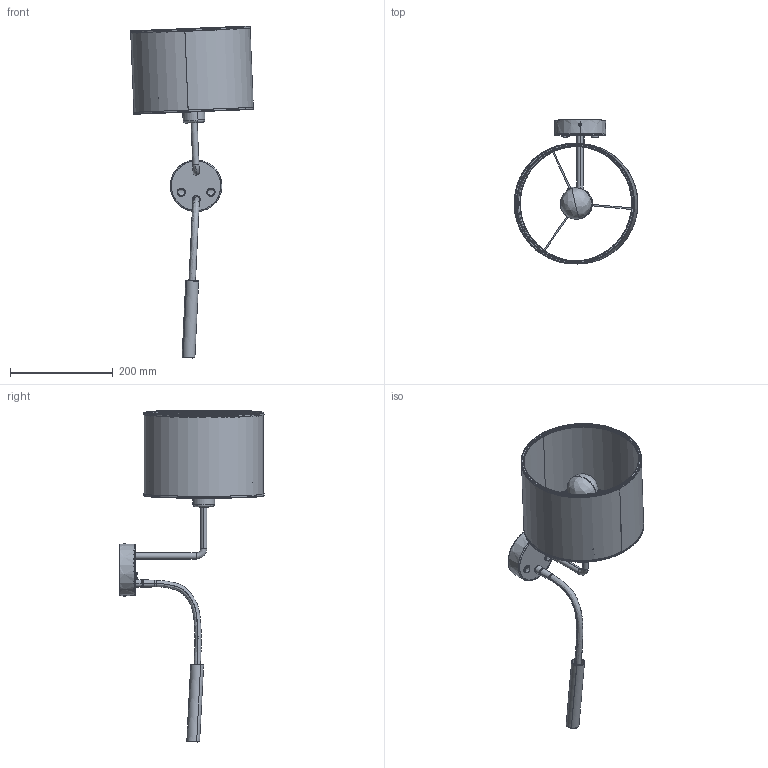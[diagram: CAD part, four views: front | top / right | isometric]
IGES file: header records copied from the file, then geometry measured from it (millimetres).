
Start section: SolidWorks IGES file using analytic representation for surfaces
Global section: file name: Z:\Modele 3D_WWW\_KOLEKCJE_WWW\HOTEL-PLUS-9073-9071\HOTEL-PLUS-9073-9071.IGS; native system: SolidWorks 2020; preprocessor: SolidWorks 2020; author: gabriela.tworek; date: 210324.203346; units: millimetre
Bounding box: 240.64 x 280.26 x 645.58 mm (x, y, z)
Surface area: 429844.2 mm2 (no closed solid volume)
Topology: 0 solids, 0 shells, 450 faces, 6345 edges, 6317 vertices
Faces by surface type: revolution 231, bspline 219
